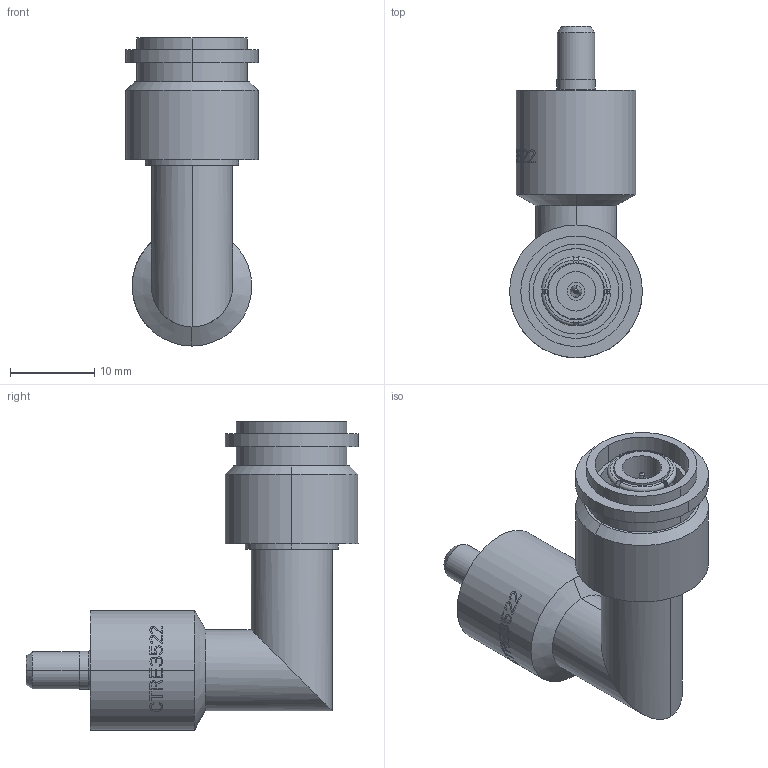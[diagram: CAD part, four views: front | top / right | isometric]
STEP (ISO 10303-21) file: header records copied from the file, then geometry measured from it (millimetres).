
FILE_DESCRIPTION((''),'2;1');
FILE_NAME('CTRE3522','2019-11-21T12:10:22',('paul.nurczyk'),('Carlisle Interconnect Technologies'),'CREO PARAMETRIC BY PTC INC, 2017260','CREO PARAMETRIC BY PTC INC, 2017260','');
FILE_SCHEMA(('CONFIG_CONTROL_DESIGN'));
Length unit declared in the file: inch
Products named in the file (1): CTRE3522
Bounding box: 15.8 x 39.5 x 36.65 mm (x, y, z)
Volume: 6143.6 mm3; surface area: 3810 mm2
Topology: 1 solids, 17 shells, 129 faces, 742 edges, 648 vertices
Faces by surface type: cylinder 66, plane 35, cone 16, torus 12
Entity records: 8120 total; most frequent: CARTESIAN_POINT 2939, ORIENTED_EDGE 994, DIRECTION 900, EDGE_CURVE 742, VERTEX_POINT 648, AXIS2_PLACEMENT_3D 368, B_SPLINE_CURVE_WITH_KNOTS 340, CIRCLE 238
